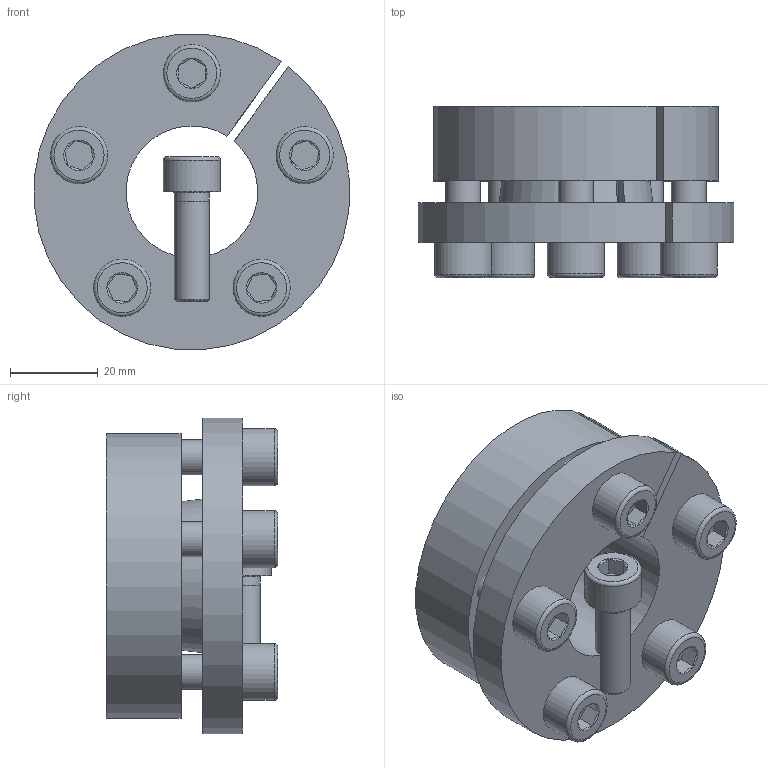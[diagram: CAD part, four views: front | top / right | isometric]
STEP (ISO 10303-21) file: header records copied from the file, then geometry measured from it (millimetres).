
FILE_DESCRIPTION( ( 'Unknown' ), '1' );
FILE_NAME( 'C:/Dokumente und Einstellungen/Sven/Desktop/15/KBS 15 - 30 x 65.stp', 'Unknown', ( 'Unknown' ), ( 'Unknown' ), 'XStep 1.0', 'Unknown', ' ' );
FILE_SCHEMA( ( 'automotive_design' ) );
Length unit declared in the file: millimetre
Products named in the file (3): Assem1; ISO EN DIN 4762 M8x25_12; KBS 15 - 30 x 65_0
Bounding box: 71.85 x 39 x 71.81 mm (x, y, z)
Volume: 150994 mm3; surface area: 54408.7 mm2
Topology: 8 solids, 8 shells, 194 faces, 404 edges, 250 vertices
Faces by surface type: plane 86, cylinder 50, cone 46, torus 12
Full cylindrical faces by diameter (mm): 6.647 x10, 7 x6, 8 x12, 9 x10, 13 x6
Entity records: 1524 total; most frequent: CARTESIAN_POINT 256, DIRECTION 230, ORIENTED_EDGE 170, AXIS2_PLACEMENT_3D 101, EDGE_LOOP 88, EDGE_CURVE 85, FACE_OUTER_BOUND 63, VERTEX_POINT 63
